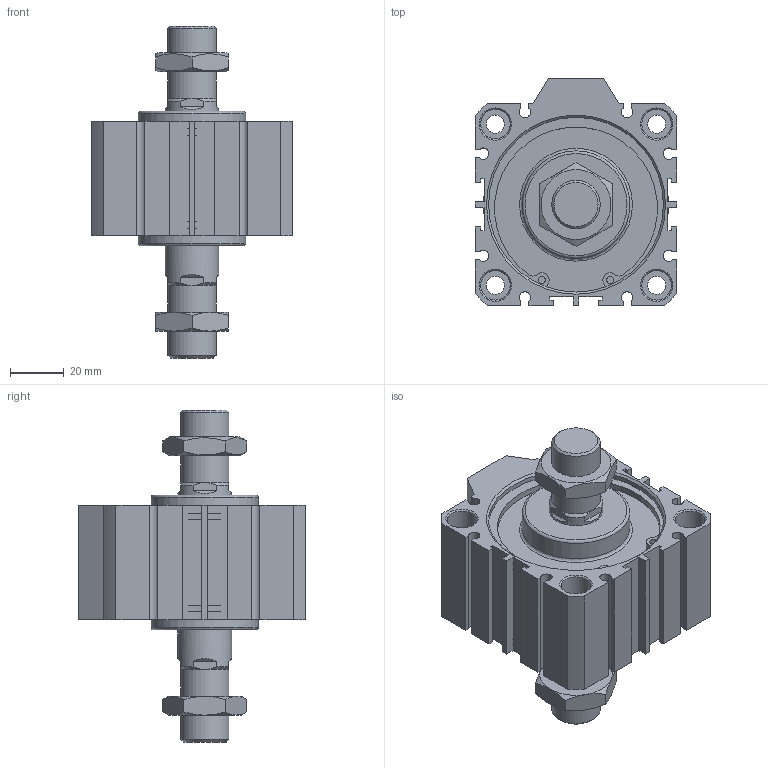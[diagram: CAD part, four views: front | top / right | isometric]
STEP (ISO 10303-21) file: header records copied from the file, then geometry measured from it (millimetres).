
FILE_DESCRIPTION((''),'2;1');
FILE_NAME('I:\3D電子目錄\氣缸\JDD\JDD-B\JDD63-B\JDD63x10-B.stp','2007-02-13T15:42:24',('662F206'),(''),'Autodesk Inventor 10','Autodesk Inventor 10','');
FILE_SCHEMA(('AUTOMOTIVE_DESIGN { 1 0 10303 214 1 1 1 1 }'));
Length unit declared in the file: millimetre
Products named in the file (3): JDD63-B; R 形環 65
Assembly tree (3 placements, depth 2):
  JDD63-B
    JDD63-B
    R 形環 65  x2
Bounding box: 75 x 84.5 x 123.5 mm (x, y, z)
Volume: 237461.9 mm3; surface area: 51102.9 mm2
Topology: 3 solids, 3 shells, 230 faces, 558 edges, 360 vertices
Faces by surface type: plane 132, cylinder 56, cone 38, bspline 2, torus 2
Full cylindrical faces by diameter (mm): 2.7 x4, 3 x2, 6.8 x4, 11 x8, 18 x4, 20 x2, 40 x2, 65 x4, 68 x2
Entity records: 6147 total; most frequent: CARTESIAN_POINT 1216, DIRECTION 1012, ORIENTED_EDGE 936, EDGE_CURVE 468, AXIS2_PLACEMENT_3D 374, VERTEX_POINT 332, EDGE_LOOP 308, VECTOR 264
